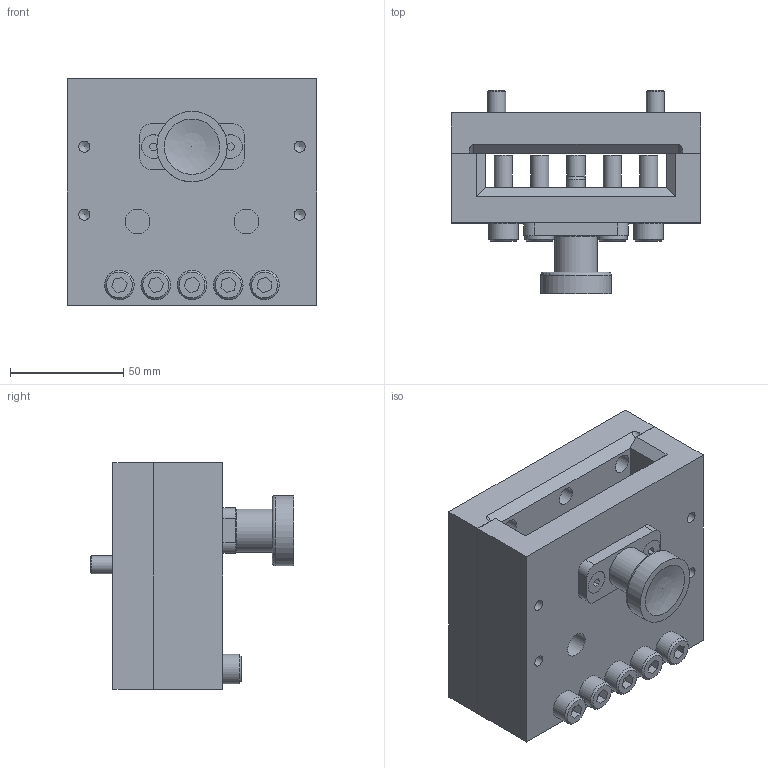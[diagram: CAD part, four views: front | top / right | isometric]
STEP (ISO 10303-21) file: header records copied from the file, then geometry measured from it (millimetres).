
FILE_DESCRIPTION(/* description */ (''),/* implementation_level */ '2;1');
FILE_NAME(/* name */ 'D:\NextGen\CD0017-QuickChange\QC-BASE.stp',/* time_stamp */ '2019-01-05T14:03:16-05:00',/* author */ ('gskreft'),/* organization */ (''),/* preprocessor_version */ 'ST-DEVELOPER v16.13',/* originating_system */ 'Autodesk Inventor 2018',/* authorisation */ '');
FILE_SCHEMA (('CONFIG_CONTROL_DESIGN'));
Length unit declared in the file: inch
Products named in the file (1): QC-BASE
Bounding box: 110 x 89.74 x 100 mm (x, y, z)
Volume: 421564.2 mm3; surface area: 97204.5 mm2
Topology: 16 solids, 16 shells, 272 faces, 601 edges, 392 vertices
Faces by surface type: plane 151, cylinder 75, cone 42, torus 3, bspline 1
Full cylindrical faces by diameter (mm): 3.683 x2, 4.826 x2, 4.915 x2, 4.917 x4, 6.647 x4, 6.917 x5, 7.971 x1, 8 x19, 8.098 x1, 8.376 x4, 8.5 x4, 10.917 x2, 11.938 x1, 12.05 x1, 13 x9, 14 x4, 18.923 x1, 20 x2, 31.013 x1
Entity records: 7054 total; most frequent: DIRECTION 1178, CARTESIAN_POINT 1111, ORIENTED_EDGE 904, EDGE_LOOP 462, AXIS2_PLACEMENT_3D 455, EDGE_CURVE 452, VERTEX_POINT 358, STYLED_ITEM 280
